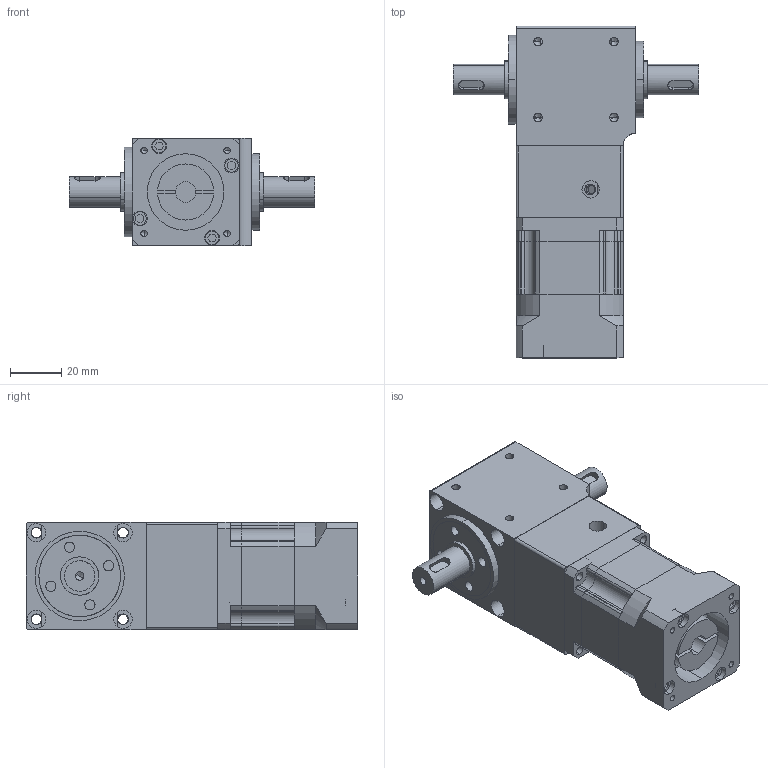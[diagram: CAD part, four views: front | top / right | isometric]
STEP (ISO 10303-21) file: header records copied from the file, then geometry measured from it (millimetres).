
FILE_DESCRIPTION (( 'STEP AP203' ), '1' );
FILE_NAME ('42双轴+PLF042（松下100W）.STEP', '2020-08-05T07:20:18', ( 'User' ), ( 'China' ), 'SwSTEP 2.0', 'SolidWorks 2015', '' );
FILE_SCHEMA (( 'CONFIG_CONTROL_DESIGN' ));
Length unit declared in the file: millimetre
Products named in the file (12): 標杶ㄗ1ㄘ; 綴楊擘ㄗ侂狟100Wㄘ; deep groove ball bearings gb_Rolling bearings 6001 GB 276-94; deep groove ball bearings gb_Rolling bearings 6002 GB 276-94; deep groove ball bearings gb_Rolling bearings 61902 GB 276-94; 褲极; 怀堤粣ㄗ邧粣ㄘ; 输入轴; NF42单级模型（8-24 30-2 4-M3-46）.; 蹟譫; 42双轴+PLF042（松下100W）; 蹟譫ㄗ2ㄘ
Assembly tree (11 placements, depth 2):
  42双轴+PLF042（松下100W）
    褲极
    输入轴
    蹟譫
    蹟譫ㄗ2ㄘ
    標杶ㄗ1ㄘ
    綴楊擘ㄗ侂狟100Wㄘ
    deep groove ball bearings gb_Rolling bearings 6001 GB 276-94
    deep groove ball bearings gb_Rolling bearings 6002 GB 276-94
    deep groove ball bearings gb_Rolling bearings 61902 GB 276-94
    怀堤粣ㄗ邧粣ㄘ
    NF42单级模型（8-24 30-2 4-M3-46）.
Bounding box: 96 x 130 x 42 mm (x, y, z)
Volume: 194676.4 mm3; surface area: 80896.2 mm2
Topology: 13 solids, 13 shells, 926 faces, 3067 edges, 2016 vertices
Faces by surface type: cylinder 370, plane 202, torus 177, sphere 98, cone 75, bspline 4
Entity records: 37347 total; most frequent: CARTESIAN_POINT 11359, ORIENTED_EDGE 5442, DIRECTION 5061, EDGE_CURVE 2721, AXIS2_PLACEMENT_3D 2170, VERTEX_POINT 1820, CIRCLE 1234, EDGE_LOOP 1103
